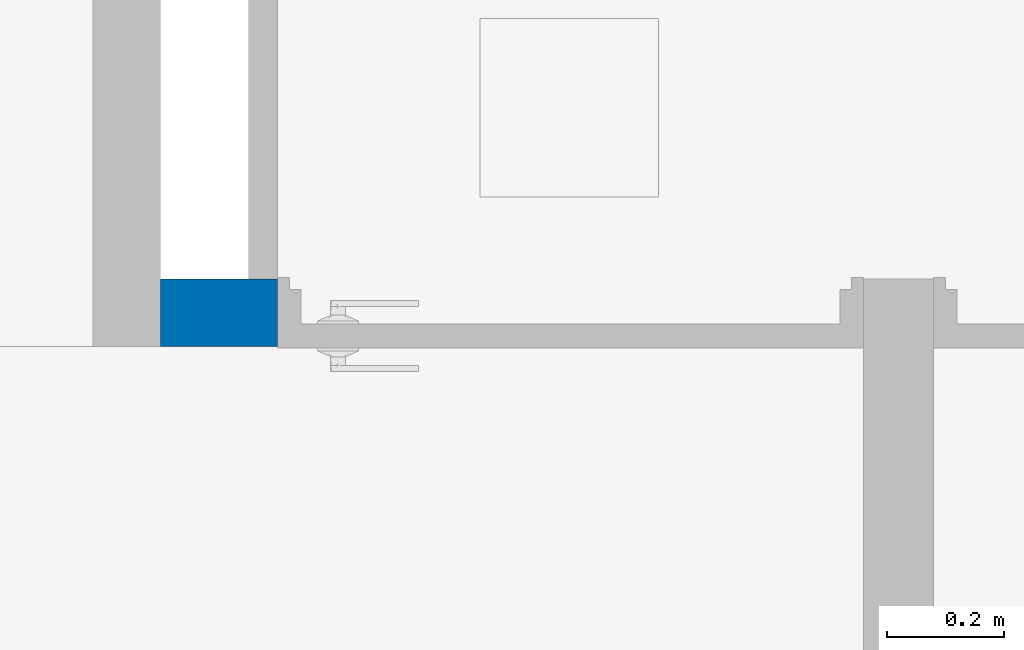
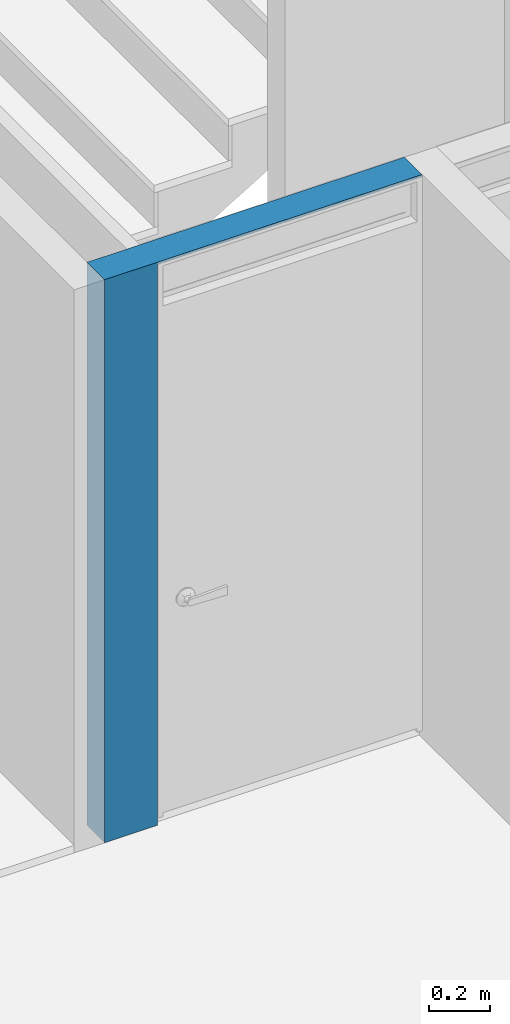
# One storey, part 29 of 48: 1 wall, 1 opening.
"""IFC4 building model written with IfcOpenShell, lengths in metres."""

from ifc_helpers import new_model, entity, si_unit, converted_unit, derived_unit, direction, frame, origin, place, context, subcontext, project, spatial, indexed_curve, outline, extrude, polygons, material, type_object, element, save


model = new_model("IFC4")

# Units and contexts
model_context = context("Model", 3, precision=1e-05, world=origin(), true_north=direction((6.123031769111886e-17, 1.0)))
body_context = subcontext(model_context, "Body", "Model", "MODEL_VIEW")
ifc_project = project(units=[si_unit("LENGTHUNIT", "METRE"), si_unit("AREAUNIT", "SQUARE_METRE"), si_unit("VOLUMEUNIT", "CUBIC_METRE"), converted_unit("PLANEANGLEUNIT", "DEGREE", entity("IfcRatioMeasure", 0.017453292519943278), si_unit("PLANEANGLEUNIT", "RADIAN"), dimensions=[0, 0, 0, 0, 0, 0, 0]), si_unit("MASSUNIT", "GRAM", prefix="KILO"), derived_unit("MASSDENSITYUNIT", [(si_unit("MASSUNIT", "GRAM", prefix="KILO"), 1), (si_unit("LENGTHUNIT", "METRE"), -3)]), derived_unit("IONCONCENTRATIONUNIT", [(si_unit("MASSUNIT", "GRAM", prefix="KILO"), 1), (si_unit("LENGTHUNIT", "METRE"), -3)]), derived_unit("MOMENTOFINERTIAUNIT", [(si_unit("LENGTHUNIT", "METRE"), 4)]), si_unit("TIMEUNIT", "SECOND"), si_unit("FREQUENCYUNIT", "HERTZ"), si_unit("THERMODYNAMICTEMPERATUREUNIT", "DEGREE_CELSIUS"), derived_unit("THERMALTRANSMITTANCEUNIT", [(si_unit("MASSUNIT", "GRAM", prefix="KILO"), 1), (si_unit("THERMODYNAMICTEMPERATUREUNIT", "KELVIN"), -1), (si_unit("TIMEUNIT", "SECOND"), -3)]), derived_unit("THERMALCONDUCTANCEUNIT", [(si_unit("MASSUNIT", "GRAM", prefix="KILO"), 1), (si_unit("THERMODYNAMICTEMPERATUREUNIT", "KELVIN"), -1), (si_unit("TIMEUNIT", "SECOND"), -3), (si_unit("LENGTHUNIT", "METRE"), 1)]), derived_unit("VOLUMETRICFLOWRATEUNIT", [(si_unit("LENGTHUNIT", "METRE"), 3), (si_unit("TIMEUNIT", "SECOND"), -1)]), derived_unit("MASSFLOWRATEUNIT", [(si_unit("MASSUNIT", "GRAM", prefix="KILO"), 1), (si_unit("TIMEUNIT", "SECOND"), -1)]), derived_unit("ROTATIONALFREQUENCYUNIT", [(si_unit("TIMEUNIT", "SECOND"), -1)]), si_unit("ELECTRICCURRENTUNIT", "AMPERE"), si_unit("ELECTRICVOLTAGEUNIT", "VOLT"), si_unit("POWERUNIT", "WATT"), si_unit("FORCEUNIT", "NEWTON", prefix="KILO"), si_unit("ILLUMINANCEUNIT", "LUX"), si_unit("LUMINOUSFLUXUNIT", "LUMEN"), si_unit("LUMINOUSINTENSITYUNIT", "CANDELA"), derived_unit("USERDEFINED", [(si_unit("MASSUNIT", "GRAM", prefix="KILO"), -1), (si_unit("LENGTHUNIT", "METRE"), -2), (si_unit("TIMEUNIT", "SECOND"), 3), (si_unit("LUMINOUSFLUXUNIT", "LUMEN"), 1)]), derived_unit("USERDEFINED", [(si_unit("MASSUNIT", "GRAM", prefix="KILO"), 1), (si_unit("TIMEUNIT", "SECOND"), -3), (si_unit("LENGTHUNIT", "METRE"), 3), (si_unit("ELECTRICCURRENTUNIT", "AMPERE"), -2)]), derived_unit("SOUNDPOWERUNIT", [(si_unit("MASSUNIT", "GRAM", prefix="KILO"), 1), (si_unit("TIMEUNIT", "SECOND"), -3), (si_unit("LENGTHUNIT", "METRE"), 2)]), derived_unit("SOUNDPRESSUREUNIT", [(si_unit("MASSUNIT", "GRAM", prefix="KILO"), 1), (si_unit("LENGTHUNIT", "METRE"), -1), (si_unit("TIMEUNIT", "SECOND"), -2)]), derived_unit("LINEARVELOCITYUNIT", [(si_unit("LENGTHUNIT", "METRE"), 1), (si_unit("TIMEUNIT", "SECOND"), -1)]), si_unit("PRESSUREUNIT", "PASCAL"), derived_unit("USERDEFINED", [(si_unit("MASSUNIT", "GRAM", prefix="KILO"), 1), (si_unit("LENGTHUNIT", "METRE"), -2), (si_unit("TIMEUNIT", "SECOND"), -2)]), derived_unit("LINEARFORCEUNIT", [(si_unit("MASSUNIT", "GRAM", prefix="KILO"), 1), (si_unit("TIMEUNIT", "SECOND"), -2)]), derived_unit("PLANARFORCEUNIT", [(si_unit("MASSUNIT", "GRAM", prefix="KILO"), 1), (si_unit("LENGTHUNIT", "METRE"), -1), (si_unit("TIMEUNIT", "SECOND"), -2)]), derived_unit("SPECIFICHEATCAPACITYUNIT", [(si_unit("THERMODYNAMICTEMPERATUREUNIT", "KELVIN"), -1), (si_unit("LENGTHUNIT", "METRE"), 2), (si_unit("TIMEUNIT", "SECOND"), -2)]), derived_unit("HEATINGVALUEUNIT", [(si_unit("LENGTHUNIT", "METRE"), 2), (si_unit("TIMEUNIT", "SECOND"), -2)]), derived_unit("VAPORPERMEABILITYUNIT", [(si_unit("LENGTHUNIT", "METRE"), -1), (si_unit("TIMEUNIT", "SECOND"), 1)]), derived_unit("DYNAMICVISCOSITYUNIT", [(si_unit("MASSUNIT", "GRAM", prefix="KILO"), 1), (si_unit("TIMEUNIT", "SECOND"), -1), (si_unit("LENGTHUNIT", "METRE"), -1)]), derived_unit("THERMALEXPANSIONCOEFFICIENTUNIT", [(si_unit("THERMODYNAMICTEMPERATUREUNIT", "KELVIN"), -1)]), derived_unit("MODULUSOFELASTICITYUNIT", [(si_unit("MASSUNIT", "GRAM", prefix="KILO"), 1), (si_unit("LENGTHUNIT", "METRE"), -1), (si_unit("TIMEUNIT", "SECOND"), -2)]), derived_unit("ISOTHERMALMOISTURECAPACITYUNIT", [(si_unit("LENGTHUNIT", "METRE"), 3), (si_unit("MASSUNIT", "GRAM", prefix="KILO"), -1)]), derived_unit("MOISTUREDIFFUSIVITYUNIT", [(si_unit("TIMEUNIT", "SECOND"), -1), (si_unit("LENGTHUNIT", "METRE"), 2)])], contexts=[model_context])

# Site, building, storey
site_placement = place(None, origin())
site = spatial("IfcSite", under=ifc_project, at=site_placement, Name="Default", CompositionType="ELEMENT")
building_placement = place(site_placement, origin())
building = spatial("IfcBuilding", under=site, at=building_placement, CompositionType="ELEMENT")
storey_placement = place(building_placement, frame((0.0, 0.0, 9.40000000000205)))
storey = spatial("IfcBuildingStorey", under=building, at=storey_placement, Name="Nivel 5", CompositionType="ELEMENT", Elevation=9.40000000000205)

# Wall, opening
ifc_material = material(Name="LADRILLO CLARO", Category="Materials")
wall_type = type_object("IfcWallType", Name="Basic Wall:B2010 - 0.115m - MI mampostería no estructural - Ladrillo", PredefinedType="STANDARD")
wall_placement = place(storey_placement, frame((8.062500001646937, -9.082499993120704, 0.0)))
wall = element("IfcWall", 1, at=wall_placement, inside=storey, type_object=wall_type, material=ifc_material, Name="Basic Wall:B2010 - 0.115m - MI mampostería no estructural - Ladrillo", ObjectType="Basic Wall:B2010 - 0.115m - MI mampostería no estructural - Ladrillo", PredefinedType="NOTDEFINED", context=body_context, shape_type="Tessellation", body=[
    polygons([(1.199999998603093, -0.057499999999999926, 2.2499999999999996), (3.815772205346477e-17, -0.057499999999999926, 2.2499999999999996), (3.815772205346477e-17, -0.057499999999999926, -1.0828671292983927e-15), (0.19999999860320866, -0.057499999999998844, -1.0828671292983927e-15), (0.19999999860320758, -0.057499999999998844, 2.2399999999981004), (1.199999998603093, -0.057499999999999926, 2.2399999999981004), (-1.509021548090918e-15, 0.057499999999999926, 2.2499999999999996), (0.1499999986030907, 0.057499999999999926, 2.2499999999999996), (0.19999999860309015, 0.05750000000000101, 2.2499999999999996), (1.1999999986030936, 0.057499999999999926, 2.2499999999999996), (1.1999999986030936, 0.057499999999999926, 2.2399999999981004), (0.1999999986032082, 0.05750000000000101, 2.2399999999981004), (0.1999999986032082, 0.05750000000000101, -1.0828671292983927e-15), (0.1499999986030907, 0.057499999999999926, -1.0828671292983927e-15), (-1.509021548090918e-15, 0.057499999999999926, -1.0828671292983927e-15)], [[[1, 2, 3, 4, 5, 6]], [[7, 8, 9, 10, 11, 12, 13, 14, 15]], [[3, 15, 14, 13, 4]], [[10, 1, 6, 11]], [[2, 1, 10, 9, 8, 7]], [[3, 2, 7, 15]], [[12, 5, 4, 13]], [[5, 12, 11, 6]]], closed=True),
])
opening_placement = place(wall_placement, frame((1.1999999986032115, 0.057499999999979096, 0.0)))
element("IfcOpeningElement", 2, at=opening_placement, cuts=wall, Name="C1030 - Puerta batiente - Madera + Metal:C1030 - 1.00 x 2.24 - Puerta batiente - Madera:1", PredefinedType="OPENING", context=body_context, shape_type="SweptSolid", body=[
    extrude(outline(indexed_curve([(0.0, 0.999999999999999), (0.0, -5.404556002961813e-30), (2.2399999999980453, -5.404556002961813e-30), (2.2399999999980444, 0.999999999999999), (0.0, 0.999999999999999)], self_intersect=False)), frame((0.0, 0.0, 0.0), z_axis=(0.0, -1.0, 0.0), x_axis=(0.0, 0.0, 1.0)), (0.0, 0.0, 1.0), 0.115),
])

save(model, "model.ifc")
